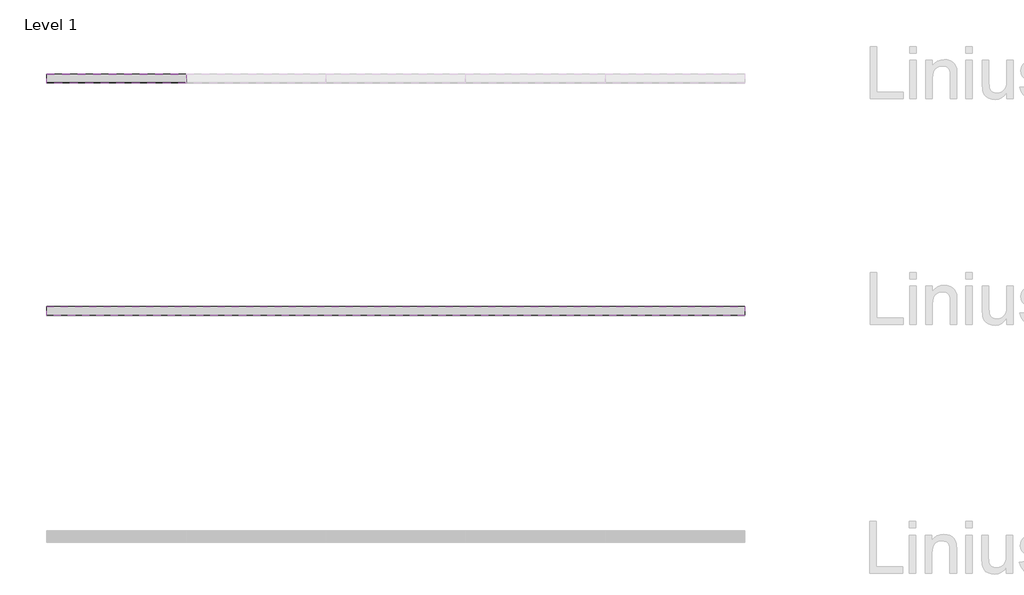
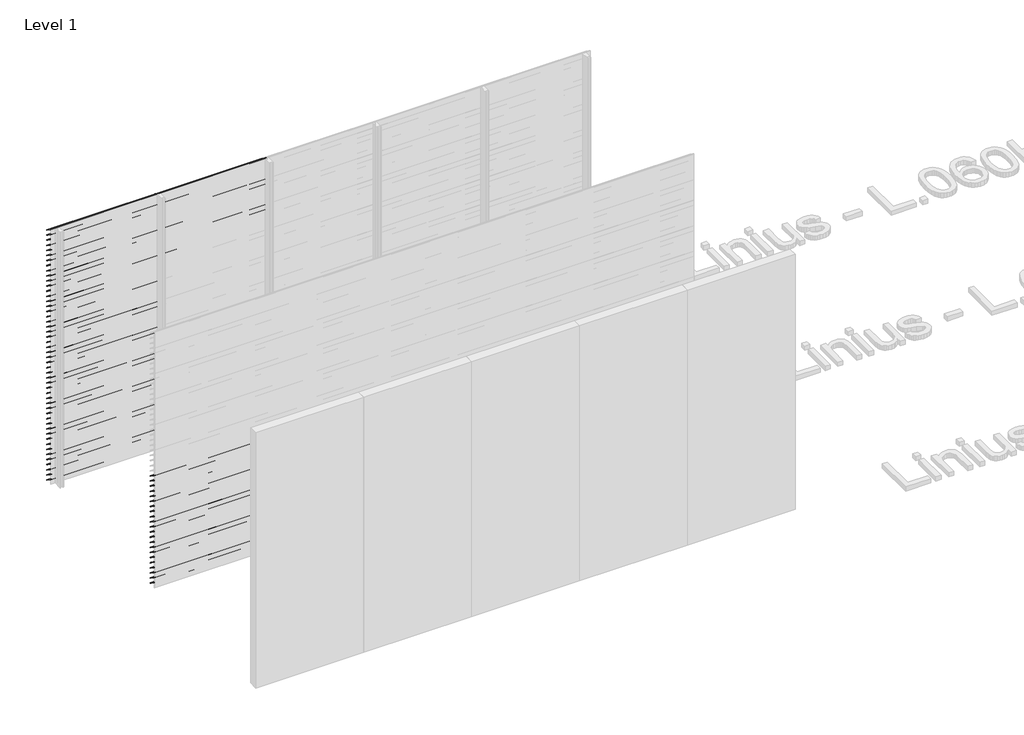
# One storey, part 78 of 153: 85 proxies.
"""IFC4 building model written with IfcOpenShell, lengths in millimetres."""

import ifcopenshell
import ifcopenshell.guid

model = None  # the IFC model being written
_history = None  # IfcOwnerHistory: only IFC2X3 demands one
_inside = {}  # id of a spatial element -> (the spatial element, [elements in it])
_under = {}  # id of a project, library or spatial element -> (it, [spatial elements below it])
_declared = {}  # id of a project -> (the project, [libraries it declares])
_typed = {}  # id of a type object -> (the type object, [elements of that type])
_made_of = {}  # id of a material, layer set ... -> (it, [elements and type objects made of it])


def new_model(schema):
    """Start an empty IFC model of exactly this schema.

    Asked for "IFC4X3", IfcOpenShell would pick the latest addendum, in which some entities
    have other attributes; the version numbers below select the first issue.
    IFC2X3 requires an IfcOwnerHistory on every rooted entity: one is made here for all.
    """
    global model, _history
    if schema == "IFC4X3":
        model = ifcopenshell.file(schema_version=(4, 3, 0, 0))
    else:
        model = ifcopenshell.file(schema=schema)
    _inside.clear()
    _under.clear()
    _declared.clear()
    _typed.clear()
    _made_of.clear()
    _history = None
    if model.schema == "IFC2X3":
        org = make("IfcOrganization", Name="unknown")
        user = make(
            "IfcPersonAndOrganization",
            ThePerson=make("IfcPerson", FamilyName="unknown"),
            TheOrganization=org,
        )
        app = make(
            "IfcApplication",
            ApplicationDeveloper=org,
            Version="unknown",
            ApplicationFullName="unknown",
            ApplicationIdentifier="unknown",
        )
        _history = make(
            "IfcOwnerHistory",
            OwningUser=user,
            OwningApplication=app,
            ChangeAction="ADDED",
            CreationDate=0,
        )
    return model


def make(cls, **values):
    """One entity of the class cls with the attributes given. An attribute that is None is left unset."""
    return model.create_entity(
        cls, **{name: value for name, value in values.items() if value is not None}
    )


def rooted(cls, **values):
    """An entity with a GlobalId (a new one), such as an element, a storey or a relation."""
    return make(cls, GlobalId=ifcopenshell.guid.new(), OwnerHistory=_history, **values)


def si_unit(unit_type, name, prefix=None):
    """IfcSIUnit, for example si_unit("LENGTHUNIT", "METRE", prefix="MILLI")."""
    return make("IfcSIUnit", UnitType=unit_type, Prefix=prefix, Name=name)


def assignment(units):
    """IfcUnitAssignment: the units of a project."""
    return None if units is None else make("IfcUnitAssignment", Units=units)


def point(xyz):
    """IfcCartesianPoint."""
    return None if xyz is None else make("IfcCartesianPoint", Coordinates=xyz)


def direction(xyz):
    """IfcDirection."""
    return None if xyz is None else make("IfcDirection", DirectionRatios=xyz)


def frame(location, z_axis=None, x_axis=None):
    """IfcAxis2Placement3D, a coordinate frame: its origin and axes. An axis left out is left unset."""
    return make(
        "IfcAxis2Placement3D",
        Location=point(location),
        Axis=direction(z_axis),
        RefDirection=direction(x_axis),
    )


def origin():
    """The frame at (0, 0, 0) with its axes left unset."""
    return frame((0.0, 0.0, 0.0))


def place(relative_to, where):
    """IfcLocalPlacement: puts the frame where relative to a parent placement (None: the world)."""
    return make(
        "IfcLocalPlacement", PlacementRelTo=relative_to, RelativePlacement=where
    )


def context(
    kind, dimensions, precision=None, world=None, true_north=None, identifier=None
):
    """IfcGeometricRepresentationContext, for example the 3D "Model" context."""
    return make(
        "IfcGeometricRepresentationContext",
        ContextIdentifier=identifier,
        ContextType=kind,
        CoordinateSpaceDimension=dimensions,
        Precision=precision,
        WorldCoordinateSystem=world,
        TrueNorth=true_north,
    )


def project(units=None, contexts=None):
    """IfcProject with its units and contexts."""
    return rooted(
        "IfcProject",
        Name="project",
        RepresentationContexts=contexts,
        UnitsInContext=assignment(units),
    )


def spatial(cls, under=None, at=None, **own):
    """A site, building, storey or space (cls), placed at a placement, below another one or the project."""
    s = rooted(cls, ObjectPlacement=at, **own)
    if under is not None:
        _under.setdefault(under.id(), (under, []))[1].append(s)
    return s


def polyline(points):
    """IfcPolyline through the points."""
    return make("IfcPolyline", Points=[point(p) for p in points])


def outline(outer, holes=None, kind="AREA"):
    """IfcArbitraryClosedProfileDef: a profile drawn as a closed curve; with holes, ...WithVoids."""
    if holes is None:
        return make("IfcArbitraryClosedProfileDef", ProfileType=kind, OuterCurve=outer)
    return make(
        "IfcArbitraryProfileDefWithVoids",
        ProfileType=kind,
        OuterCurve=outer,
        InnerCurves=holes,
    )


def extrude(swept, where, along, depth):
    """IfcExtrudedAreaSolid: the profile swept, set in the frame where, extruded along a direction by depth."""
    return make(
        "IfcExtrudedAreaSolid",
        SweptArea=swept,
        Position=where,
        ExtrudedDirection=direction(along),
        Depth=depth,
    )


def shape(context_of_items, identifier, shape_type, items):
    """IfcShapeRepresentation: the items that make up one representation, for example the "Body"."""
    return make(
        "IfcShapeRepresentation",
        ContextOfItems=context_of_items,
        RepresentationIdentifier=identifier,
        RepresentationType=shape_type,
        Items=items,
    )


def made_of(thing, what):
    """Note that an element or type object is made of a material, layer set ...; save() writes the relation."""
    if what is not None:
        _made_of.setdefault(what.id(), (what, []))[1].append(thing)
    return thing


def element(
    cls,
    number,
    at=None,
    inside=None,
    cuts=None,
    type_object=None,
    material=None,
    context=None,
    identifier="Body",
    shape_type=None,
    held_by="IfcProductDefinitionShape",
    body=None,
    shapes=None,
    **own,
):
    """One element of the class cls, such as IfcWall. Its Tag is "e" and its number.

    at: its placement. inside: the storey or other place that contains it. cuts: it is an
    opening in that element (IfcRelVoidsElement). A single representation is given by context,
    identifier, shape_type and body (its items); several are given by shapes. held_by: the class
    of the entity that holds the representations. save() writes the other relations.
    """
    e = rooted(cls, Tag="e%d" % number, ObjectPlacement=at, **own)
    if body is not None:
        shapes = [shape(context, identifier, shape_type, body)]
    if shapes is not None:
        e.Representation = make(held_by, Representations=shapes)
    if inside is not None:
        _inside.setdefault(inside.id(), (inside, []))[1].append(e)
    if cuts is not None:
        rooted(
            "IfcRelVoidsElement", RelatingBuildingElement=cuts, RelatedOpeningElement=e
        )
    if type_object is not None:
        _typed.setdefault(type_object.id(), (type_object, []))[1].append(e)
    return made_of(e, material)


def aggregate(whole, parts):
    """IfcRelAggregates: a whole, such as a stair, and the parts it consists of."""
    return rooted("IfcRelAggregates", RelatingObject=whole, RelatedObjects=parts)


def save(model, path):
    """Write the relations noted so far, then the file.

    IfcRelAggregates (storeys below a building ...), IfcRelContainedInSpatialStructure (elements
    in a storey), IfcRelDefinesByType, IfcRelAssociatesMaterial and IfcRelDeclares: one each for
    every whole, place, type object, material and project.
    """
    for whole, parts in _under.values():
        aggregate(whole, parts)
    for where, things in _inside.values():
        rooted(
            "IfcRelContainedInSpatialStructure",
            RelatedElements=things,
            RelatingStructure=where,
        )
    for kind, things in _typed.values():
        rooted("IfcRelDefinesByType", RelatedObjects=things, RelatingType=kind)
    for what, things in _made_of.values():
        rooted("IfcRelAssociatesMaterial", RelatedObjects=things, RelatingMaterial=what)
    for by, libraries in _declared.values():
        rooted("IfcRelDeclares", RelatingContext=by, RelatedDefinitions=libraries)
    model.write(path)


model = new_model("IFC4")

# Units and contexts
model_context = context("Model", 3, world=origin())
ifc_project = project(units=[si_unit("LENGTHUNIT", "METRE", prefix="MILLI")], contexts=[model_context])

# Site, building, storey
site = spatial("IfcSite", under=ifc_project)
building = spatial("IfcBuilding", under=site)
storey = spatial("IfcBuildingStorey", under=building, Name="Level 1", Elevation=0.0)

# Proxies
placement = place(None, origin())
element("IfcBuildingElementProxy", 1, Name="Wall Sweeps", at=placement, inside=storey, context=model_context, shape_type="SweptSolid", body=[
    extrude(outline(polyline([(51561.0540136, 2946.0), (51561.0540136, 2940.0), (51559.8040136, 2940.7216933), (51559.8040136, 2945.2538091), (51483.0540136, 2993.9915103), (51483.0540136, 3000.0), (51484.3040136, 3000.0), (51484.3040136, 2994.7377012), (51561.0540136, 2946.0)])), frame((466.6208097, 0.0, 0.0), z_axis=(1.0, 0.0, 0.0), x_axis=(0.0, 1.0, 0.0)), (0.0, 0.0, 1.0), 1200.0000002),
])
element("IfcBuildingElementProxy", 2, Name="Wall Sweeps", at=placement, inside=storey, context=model_context, shape_type="SweptSolid", body=[
    extrude(outline(polyline([(51561.0540136, 2886.0), (51561.0540136, 2880.0), (51559.8040136, 2880.7216933), (51559.8040136, 2885.2538091), (51483.0540136, 2933.9915103), (51483.0540136, 2940.0), (51484.3040136, 2940.0), (51484.3040136, 2934.7377012), (51561.0540136, 2886.0)])), frame((466.6208097, 0.0, 0.0), z_axis=(1.0, 0.0, 0.0), x_axis=(0.0, 1.0, 0.0)), (0.0, 0.0, 1.0), 1200.0000002),
])
element("IfcBuildingElementProxy", 3, Name="Wall Sweeps", at=placement, inside=storey, context=model_context, shape_type="SweptSolid", body=[
    extrude(outline(polyline([(51561.0540136, 2826.0), (51561.0540136, 2820.0), (51559.8040136, 2820.7216933), (51559.8040136, 2825.2538091), (51483.0540136, 2873.9915103), (51483.0540136, 2880.0), (51484.3040136, 2880.0), (51484.3040136, 2874.7377012), (51561.0540136, 2826.0)])), frame((466.6208097, 0.0, 0.0), z_axis=(1.0, 0.0, 0.0), x_axis=(0.0, 1.0, 0.0)), (0.0, 0.0, 1.0), 1200.0000002),
])
element("IfcBuildingElementProxy", 4, Name="Wall Sweeps", at=placement, inside=storey, context=model_context, shape_type="SweptSolid", body=[
    extrude(outline(polyline([(51561.0540136, 2766.0), (51561.0540136, 2760.0), (51559.8040136, 2760.7216933), (51559.8040136, 2765.2538091), (51483.0540136, 2813.9915103), (51483.0540136, 2820.0), (51484.3040136, 2820.0), (51484.3040136, 2814.7377012), (51561.0540136, 2766.0)])), frame((466.6208097, 0.0, 0.0), z_axis=(1.0, 0.0, 0.0), x_axis=(0.0, 1.0, 0.0)), (0.0, 0.0, 1.0), 1200.0000002),
])
element("IfcBuildingElementProxy", 5, Name="Wall Sweeps", at=placement, inside=storey, context=model_context, shape_type="SweptSolid", body=[
    extrude(outline(polyline([(51561.0540136, 2706.0), (51561.0540136, 2700.0), (51559.8040136, 2700.7216933), (51559.8040136, 2705.2538091), (51483.0540136, 2753.9915103), (51483.0540136, 2760.0), (51484.3040136, 2760.0), (51484.3040136, 2754.7377012), (51561.0540136, 2706.0)])), frame((466.6208097, 0.0, 0.0), z_axis=(1.0, 0.0, 0.0), x_axis=(0.0, 1.0, 0.0)), (0.0, 0.0, 1.0), 1200.0000002),
])
element("IfcBuildingElementProxy", 6, Name="Wall Sweeps", at=placement, inside=storey, context=model_context, shape_type="SweptSolid", body=[
    extrude(outline(polyline([(51561.0540136, 2646.0), (51561.0540136, 2640.0), (51559.8040136, 2640.7216933), (51559.8040136, 2645.2538091), (51483.0540136, 2693.9915103), (51483.0540136, 2700.0), (51484.3040136, 2700.0), (51484.3040136, 2694.7377012), (51561.0540136, 2646.0)])), frame((466.6208097, 0.0, 0.0), z_axis=(1.0, 0.0, 0.0), x_axis=(0.0, 1.0, 0.0)), (0.0, 0.0, 1.0), 1200.0000002),
])
element("IfcBuildingElementProxy", 7, Name="Wall Sweeps", at=placement, inside=storey, context=model_context, shape_type="SweptSolid", body=[
    extrude(outline(polyline([(51561.0540136, 2586.0), (51561.0540136, 2580.0), (51559.8040136, 2580.7216933), (51559.8040136, 2585.2538091), (51483.0540136, 2633.9915103), (51483.0540136, 2640.0), (51484.3040136, 2640.0), (51484.3040136, 2634.7377012), (51561.0540136, 2586.0)])), frame((466.6208097, 0.0, 0.0), z_axis=(1.0, 0.0, 0.0), x_axis=(0.0, 1.0, 0.0)), (0.0, 0.0, 1.0), 1200.0000002),
])
element("IfcBuildingElementProxy", 8, Name="Wall Sweeps", at=placement, inside=storey, context=model_context, shape_type="SweptSolid", body=[
    extrude(outline(polyline([(51561.0540136, 2526.0), (51561.0540136, 2520.0), (51559.8040136, 2520.7216933), (51559.8040136, 2525.2538091), (51483.0540136, 2573.9915103), (51483.0540136, 2580.0), (51484.3040136, 2580.0), (51484.3040136, 2574.7377012), (51561.0540136, 2526.0)])), frame((466.6208097, 0.0, 0.0), z_axis=(1.0, 0.0, 0.0), x_axis=(0.0, 1.0, 0.0)), (0.0, 0.0, 1.0), 1200.0000002),
])
element("IfcBuildingElementProxy", 9, Name="Wall Sweeps", at=placement, inside=storey, context=model_context, shape_type="SweptSolid", body=[
    extrude(outline(polyline([(51561.0540136, 2466.0), (51561.0540136, 2460.0), (51559.8040136, 2460.7216933), (51559.8040136, 2465.2538091), (51483.0540136, 2513.9915103), (51483.0540136, 2520.0), (51484.3040136, 2520.0), (51484.3040136, 2514.7377012), (51561.0540136, 2466.0)])), frame((466.6208097, 0.0, 0.0), z_axis=(1.0, 0.0, 0.0), x_axis=(0.0, 1.0, 0.0)), (0.0, 0.0, 1.0), 1200.0000002),
])
element("IfcBuildingElementProxy", 10, Name="Wall Sweeps", at=placement, inside=storey, context=model_context, shape_type="SweptSolid", body=[
    extrude(outline(polyline([(51561.0540136, 2406.0), (51561.0540136, 2400.0), (51559.8040136, 2400.7216933), (51559.8040136, 2405.2538091), (51483.0540136, 2453.9915103), (51483.0540136, 2460.0), (51484.3040136, 2460.0), (51484.3040136, 2454.7377012), (51561.0540136, 2406.0)])), frame((466.6208097, 0.0, 0.0), z_axis=(1.0, 0.0, 0.0), x_axis=(0.0, 1.0, 0.0)), (0.0, 0.0, 1.0), 1200.0000002),
])
element("IfcBuildingElementProxy", 11, Name="Wall Sweeps", at=placement, inside=storey, context=model_context, shape_type="SweptSolid", body=[
    extrude(outline(polyline([(51561.0540136, 2346.0), (51561.0540136, 2340.0), (51559.8040136, 2340.7216933), (51559.8040136, 2345.2538091), (51483.0540136, 2393.9915103), (51483.0540136, 2400.0), (51484.3040136, 2400.0), (51484.3040136, 2394.7377012), (51561.0540136, 2346.0)])), frame((466.6208097, 0.0, 0.0), z_axis=(1.0, 0.0, 0.0), x_axis=(0.0, 1.0, 0.0)), (0.0, 0.0, 1.0), 1200.0000002),
])
element("IfcBuildingElementProxy", 12, Name="Wall Sweeps", at=placement, inside=storey, context=model_context, shape_type="SweptSolid", body=[
    extrude(outline(polyline([(51561.0540136, 2286.0), (51561.0540136, 2280.0), (51559.8040136, 2280.7216933), (51559.8040136, 2285.2538091), (51483.0540136, 2333.9915103), (51483.0540136, 2340.0), (51484.3040136, 2340.0), (51484.3040136, 2334.7377012), (51561.0540136, 2286.0)])), frame((466.6208097, 0.0, 0.0), z_axis=(1.0, 0.0, 0.0), x_axis=(0.0, 1.0, 0.0)), (0.0, 0.0, 1.0), 1200.0000002),
])
element("IfcBuildingElementProxy", 13, Name="Wall Sweeps", at=placement, inside=storey, context=model_context, shape_type="SweptSolid", body=[
    extrude(outline(polyline([(51561.0540136, 2226.0), (51561.0540136, 2220.0), (51559.8040136, 2220.7216933), (51559.8040136, 2225.2538091), (51483.0540136, 2273.9915103), (51483.0540136, 2280.0), (51484.3040136, 2280.0), (51484.3040136, 2274.7377012), (51561.0540136, 2226.0)])), frame((466.6208097, 0.0, 0.0), z_axis=(1.0, 0.0, 0.0), x_axis=(0.0, 1.0, 0.0)), (0.0, 0.0, 1.0), 1200.0000002),
])
element("IfcBuildingElementProxy", 14, Name="Wall Sweeps", at=placement, inside=storey, context=model_context, shape_type="SweptSolid", body=[
    extrude(outline(polyline([(51561.0540136, 2166.0), (51561.0540136, 2160.0), (51559.8040136, 2160.7216933), (51559.8040136, 2165.2538091), (51483.0540136, 2213.9915103), (51483.0540136, 2220.0), (51484.3040136, 2220.0), (51484.3040136, 2214.7377012), (51561.0540136, 2166.0)])), frame((466.6208097, 0.0, 0.0), z_axis=(1.0, 0.0, 0.0), x_axis=(0.0, 1.0, 0.0)), (0.0, 0.0, 1.0), 1200.0000002),
])
element("IfcBuildingElementProxy", 15, Name="Wall Sweeps", at=placement, inside=storey, context=model_context, shape_type="SweptSolid", body=[
    extrude(outline(polyline([(51561.0540136, 2106.0), (51561.0540136, 2100.0), (51559.8040136, 2100.7216933), (51559.8040136, 2105.2538091), (51483.0540136, 2153.9915103), (51483.0540136, 2160.0), (51484.3040136, 2160.0), (51484.3040136, 2154.7377012), (51561.0540136, 2106.0)])), frame((466.6208097, 0.0, 0.0), z_axis=(1.0, 0.0, 0.0), x_axis=(0.0, 1.0, 0.0)), (0.0, 0.0, 1.0), 1200.0000002),
])
element("IfcBuildingElementProxy", 16, Name="Wall Sweeps", at=placement, inside=storey, context=model_context, shape_type="SweptSolid", body=[
    extrude(outline(polyline([(51561.0540136, 2046.0), (51561.0540136, 2040.0), (51559.8040136, 2040.7216933), (51559.8040136, 2045.2538091), (51483.0540136, 2093.9915103), (51483.0540136, 2100.0), (51484.3040136, 2100.0), (51484.3040136, 2094.7377012), (51561.0540136, 2046.0)])), frame((466.6208097, 0.0, 0.0), z_axis=(1.0, 0.0, 0.0), x_axis=(0.0, 1.0, 0.0)), (0.0, 0.0, 1.0), 1200.0000002),
])
element("IfcBuildingElementProxy", 17, Name="Wall Sweeps", at=placement, inside=storey, context=model_context, shape_type="SweptSolid", body=[
    extrude(outline(polyline([(51561.0540136, 1986.0), (51561.0540136, 1980.0), (51559.8040136, 1980.7216933), (51559.8040136, 1985.2538091), (51483.0540136, 2033.9915103), (51483.0540136, 2040.0), (51484.3040136, 2040.0), (51484.3040136, 2034.7377012), (51561.0540136, 1986.0)])), frame((466.6208097, 0.0, 0.0), z_axis=(1.0, 0.0, 0.0), x_axis=(0.0, 1.0, 0.0)), (0.0, 0.0, 1.0), 1200.0000002),
])
element("IfcBuildingElementProxy", 18, Name="Wall Sweeps", at=placement, inside=storey, context=model_context, shape_type="SweptSolid", body=[
    extrude(outline(polyline([(51561.0540136, 1926.0), (51561.0540136, 1920.0), (51559.8040136, 1920.7216933), (51559.8040136, 1925.2538091), (51483.0540136, 1973.9915103), (51483.0540136, 1980.0), (51484.3040136, 1980.0), (51484.3040136, 1974.7377012), (51561.0540136, 1926.0)])), frame((466.6208097, 0.0, 0.0), z_axis=(1.0, 0.0, 0.0), x_axis=(0.0, 1.0, 0.0)), (0.0, 0.0, 1.0), 1200.0000002),
])
element("IfcBuildingElementProxy", 19, Name="Wall Sweeps", at=placement, inside=storey, context=model_context, shape_type="SweptSolid", body=[
    extrude(outline(polyline([(51561.0540136, 1866.0), (51561.0540136, 1860.0), (51559.8040136, 1860.7216933), (51559.8040136, 1865.2538091), (51483.0540136, 1913.9915103), (51483.0540136, 1920.0), (51484.3040136, 1920.0), (51484.3040136, 1914.7377012), (51561.0540136, 1866.0)])), frame((466.6208097, 0.0, 0.0), z_axis=(1.0, 0.0, 0.0), x_axis=(0.0, 1.0, 0.0)), (0.0, 0.0, 1.0), 1200.0000002),
])
element("IfcBuildingElementProxy", 20, Name="Wall Sweeps", at=placement, inside=storey, context=model_context, shape_type="SweptSolid", body=[
    extrude(outline(polyline([(51561.0540136, 1806.0), (51561.0540136, 1800.0), (51559.8040136, 1800.7216933), (51559.8040136, 1805.2538091), (51483.0540136, 1853.9915103), (51483.0540136, 1860.0), (51484.3040136, 1860.0), (51484.3040136, 1854.7377012), (51561.0540136, 1806.0)])), frame((466.6208097, 0.0, 0.0), z_axis=(1.0, 0.0, 0.0), x_axis=(0.0, 1.0, 0.0)), (0.0, 0.0, 1.0), 1200.0000002),
])
element("IfcBuildingElementProxy", 21, Name="Wall Sweeps", at=placement, inside=storey, context=model_context, shape_type="SweptSolid", body=[
    extrude(outline(polyline([(51561.0540136, 1746.0), (51561.0540136, 1740.0), (51559.8040136, 1740.7216933), (51559.8040136, 1745.2538091), (51483.0540136, 1793.9915103), (51483.0540136, 1800.0), (51484.3040136, 1800.0), (51484.3040136, 1794.7377012), (51561.0540136, 1746.0)])), frame((466.6208097, 0.0, 0.0), z_axis=(1.0, 0.0, 0.0), x_axis=(0.0, 1.0, 0.0)), (0.0, 0.0, 1.0), 1200.0000002),
])
element("IfcBuildingElementProxy", 22, Name="Wall Sweeps", at=placement, inside=storey, context=model_context, shape_type="SweptSolid", body=[
    extrude(outline(polyline([(51561.0540136, 1686.0), (51561.0540136, 1680.0), (51559.8040136, 1680.7216933), (51559.8040136, 1685.2538091), (51483.0540136, 1733.9915103), (51483.0540136, 1740.0), (51484.3040136, 1740.0), (51484.3040136, 1734.7377012), (51561.0540136, 1686.0)])), frame((466.6208097, 0.0, 0.0), z_axis=(1.0, 0.0, 0.0), x_axis=(0.0, 1.0, 0.0)), (0.0, 0.0, 1.0), 1200.0000002),
])
element("IfcBuildingElementProxy", 23, Name="Wall Sweeps", at=placement, inside=storey, context=model_context, shape_type="SweptSolid", body=[
    extrude(outline(polyline([(51561.0540136, 1626.0), (51561.0540136, 1620.0), (51559.8040136, 1620.7216933), (51559.8040136, 1625.2538091), (51483.0540136, 1673.9915103), (51483.0540136, 1680.0), (51484.3040136, 1680.0), (51484.3040136, 1674.7377012), (51561.0540136, 1626.0)])), frame((466.6208097, 0.0, 0.0), z_axis=(1.0, 0.0, 0.0), x_axis=(0.0, 1.0, 0.0)), (0.0, 0.0, 1.0), 1200.0000002),
])
element("IfcBuildingElementProxy", 24, Name="Wall Sweeps", at=placement, inside=storey, context=model_context, shape_type="SweptSolid", body=[
    extrude(outline(polyline([(51561.0540136, 1566.0), (51561.0540136, 1560.0), (51559.8040136, 1560.7216933), (51559.8040136, 1565.2538091), (51483.0540136, 1613.9915103), (51483.0540136, 1620.0), (51484.3040136, 1620.0), (51484.3040136, 1614.7377012), (51561.0540136, 1566.0)])), frame((466.6208097, 0.0, 0.0), z_axis=(1.0, 0.0, 0.0), x_axis=(0.0, 1.0, 0.0)), (0.0, 0.0, 1.0), 1200.0000002),
])
element("IfcBuildingElementProxy", 25, Name="Wall Sweeps", at=placement, inside=storey, context=model_context, shape_type="SweptSolid", body=[
    extrude(outline(polyline([(51561.0540136, 1506.0), (51561.0540136, 1500.0), (51559.8040136, 1500.7216933), (51559.8040136, 1505.2538091), (51483.0540136, 1553.9915103), (51483.0540136, 1560.0), (51484.3040136, 1560.0), (51484.3040136, 1554.7377012), (51561.0540136, 1506.0)])), frame((466.6208097, 0.0, 0.0), z_axis=(1.0, 0.0, 0.0), x_axis=(0.0, 1.0, 0.0)), (0.0, 0.0, 1.0), 1200.0000002),
])
element("IfcBuildingElementProxy", 26, Name="Wall Sweeps", at=placement, inside=storey, context=model_context, shape_type="SweptSolid", body=[
    extrude(outline(polyline([(51561.0540136, 1446.0), (51561.0540136, 1440.0), (51559.8040136, 1440.7216933), (51559.8040136, 1445.2538091), (51483.0540136, 1493.9915103), (51483.0540136, 1500.0), (51484.3040136, 1500.0), (51484.3040136, 1494.7377012), (51561.0540136, 1446.0)])), frame((466.6208097, 0.0, 0.0), z_axis=(1.0, 0.0, 0.0), x_axis=(0.0, 1.0, 0.0)), (0.0, 0.0, 1.0), 1200.0000002),
])
element("IfcBuildingElementProxy", 27, Name="Wall Sweeps", at=placement, inside=storey, context=model_context, shape_type="SweptSolid", body=[
    extrude(outline(polyline([(51561.0540136, 1386.0), (51561.0540136, 1380.0), (51559.8040136, 1380.7216933), (51559.8040136, 1385.2538091), (51483.0540136, 1433.9915103), (51483.0540136, 1440.0), (51484.3040136, 1440.0), (51484.3040136, 1434.7377012), (51561.0540136, 1386.0)])), frame((466.6208097, 0.0, 0.0), z_axis=(1.0, 0.0, 0.0), x_axis=(0.0, 1.0, 0.0)), (0.0, 0.0, 1.0), 1200.0000002),
])
element("IfcBuildingElementProxy", 28, Name="Wall Sweeps", at=placement, inside=storey, context=model_context, shape_type="SweptSolid", body=[
    extrude(outline(polyline([(51561.0540136, 1326.0), (51561.0540136, 1320.0), (51559.8040136, 1320.7216933), (51559.8040136, 1325.2538091), (51483.0540136, 1373.9915103), (51483.0540136, 1380.0), (51484.3040136, 1380.0), (51484.3040136, 1374.7377012), (51561.0540136, 1326.0)])), frame((466.6208097, 0.0, 0.0), z_axis=(1.0, 0.0, 0.0), x_axis=(0.0, 1.0, 0.0)), (0.0, 0.0, 1.0), 1200.0000002),
])
element("IfcBuildingElementProxy", 29, Name="Wall Sweeps", at=placement, inside=storey, context=model_context, shape_type="SweptSolid", body=[
    extrude(outline(polyline([(51561.0540136, 1266.0), (51561.0540136, 1260.0), (51559.8040136, 1260.7216933), (51559.8040136, 1265.2538091), (51483.0540136, 1313.9915103), (51483.0540136, 1320.0), (51484.3040136, 1320.0), (51484.3040136, 1314.7377012), (51561.0540136, 1266.0)])), frame((466.6208097, 0.0, 0.0), z_axis=(1.0, 0.0, 0.0), x_axis=(0.0, 1.0, 0.0)), (0.0, 0.0, 1.0), 1200.0000002),
])
element("IfcBuildingElementProxy", 30, Name="Wall Sweeps", at=placement, inside=storey, context=model_context, shape_type="SweptSolid", body=[
    extrude(outline(polyline([(51561.0540136, 1206.0), (51561.0540136, 1200.0), (51559.8040136, 1200.7216933), (51559.8040136, 1205.2538091), (51483.0540136, 1253.9915103), (51483.0540136, 1260.0), (51484.3040136, 1260.0), (51484.3040136, 1254.7377012), (51561.0540136, 1206.0)])), frame((466.6208097, 0.0, 0.0), z_axis=(1.0, 0.0, 0.0), x_axis=(0.0, 1.0, 0.0)), (0.0, 0.0, 1.0), 1200.0000002),
])
element("IfcBuildingElementProxy", 31, Name="Wall Sweeps", at=placement, inside=storey, context=model_context, shape_type="SweptSolid", body=[
    extrude(outline(polyline([(51561.0540136, 1146.0), (51561.0540136, 1140.0), (51559.8040136, 1140.7216933), (51559.8040136, 1145.2538091), (51483.0540136, 1193.9915103), (51483.0540136, 1200.0), (51484.3040136, 1200.0), (51484.3040136, 1194.7377012), (51561.0540136, 1146.0)])), frame((466.6208097, 0.0, 0.0), z_axis=(1.0, 0.0, 0.0), x_axis=(0.0, 1.0, 0.0)), (0.0, 0.0, 1.0), 1200.0000002),
])
element("IfcBuildingElementProxy", 32, Name="Wall Sweeps", at=placement, inside=storey, context=model_context, shape_type="SweptSolid", body=[
    extrude(outline(polyline([(51561.0540136, 1086.0), (51561.0540136, 1080.0), (51559.8040136, 1080.7216933), (51559.8040136, 1085.2538091), (51483.0540136, 1133.9915103), (51483.0540136, 1140.0), (51484.3040136, 1140.0), (51484.3040136, 1134.7377012), (51561.0540136, 1086.0)])), frame((466.6208097, 0.0, 0.0), z_axis=(1.0, 0.0, 0.0), x_axis=(0.0, 1.0, 0.0)), (0.0, 0.0, 1.0), 1200.0000002),
])
element("IfcBuildingElementProxy", 33, Name="Wall Sweeps", at=placement, inside=storey, context=model_context, shape_type="SweptSolid", body=[
    extrude(outline(polyline([(51561.0540136, 1026.0), (51561.0540136, 1020.0), (51559.8040136, 1020.7216933), (51559.8040136, 1025.2538091), (51483.0540136, 1073.9915103), (51483.0540136, 1080.0), (51484.3040136, 1080.0), (51484.3040136, 1074.7377012), (51561.0540136, 1026.0)])), frame((466.6208097, 0.0, 0.0), z_axis=(1.0, 0.0, 0.0), x_axis=(0.0, 1.0, 0.0)), (0.0, 0.0, 1.0), 1200.0000002),
])
element("IfcBuildingElementProxy", 34, Name="Wall Sweeps", at=placement, inside=storey, context=model_context, shape_type="SweptSolid", body=[
    extrude(outline(polyline([(51561.0540136, 966.0), (51561.0540136, 960.0), (51559.8040136, 960.7216933), (51559.8040136, 965.2538091), (51483.0540136, 1013.9915103), (51483.0540136, 1020.0), (51484.3040136, 1020.0), (51484.3040136, 1014.7377012), (51561.0540136, 966.0)])), frame((466.6208097, 0.0, 0.0), z_axis=(1.0, 0.0, 0.0), x_axis=(0.0, 1.0, 0.0)), (0.0, 0.0, 1.0), 1200.0000002),
])
element("IfcBuildingElementProxy", 35, Name="Wall Sweeps", at=placement, inside=storey, context=model_context, shape_type="SweptSolid", body=[
    extrude(outline(polyline([(51561.0540136, 906.0), (51561.0540136, 900.0), (51559.8040136, 900.7216933), (51559.8040136, 905.2538091), (51483.0540136, 953.9915103), (51483.0540136, 960.0), (51484.3040136, 960.0), (51484.3040136, 954.7377012), (51561.0540136, 906.0)])), frame((466.6208097, 0.0, 0.0), z_axis=(1.0, 0.0, 0.0), x_axis=(0.0, 1.0, 0.0)), (0.0, 0.0, 1.0), 1200.0000002),
])
element("IfcBuildingElementProxy", 36, Name="Wall Sweeps", at=placement, inside=storey, context=model_context, shape_type="SweptSolid", body=[
    extrude(outline(polyline([(51561.0540136, 846.0), (51561.0540136, 840.0), (51559.8040136, 840.7216933), (51559.8040136, 845.2538091), (51483.0540136, 893.9915103), (51483.0540136, 900.0), (51484.3040136, 900.0), (51484.3040136, 894.7377012), (51561.0540136, 846.0)])), frame((466.6208097, 0.0, 0.0), z_axis=(1.0, 0.0, 0.0), x_axis=(0.0, 1.0, 0.0)), (0.0, 0.0, 1.0), 1200.0000002),
])
element("IfcBuildingElementProxy", 37, Name="Wall Sweeps", at=placement, inside=storey, context=model_context, shape_type="SweptSolid", body=[
    extrude(outline(polyline([(51561.0540136, 786.0), (51561.0540136, 780.0), (51559.8040136, 780.7216933), (51559.8040136, 785.2538091), (51483.0540136, 833.9915103), (51483.0540136, 840.0), (51484.3040136, 840.0), (51484.3040136, 834.7377012), (51561.0540136, 786.0)])), frame((466.6208097, 0.0, 0.0), z_axis=(1.0, 0.0, 0.0), x_axis=(0.0, 1.0, 0.0)), (0.0, 0.0, 1.0), 1200.0000002),
])
element("IfcBuildingElementProxy", 38, Name="Wall Sweeps", at=placement, inside=storey, context=model_context, shape_type="SweptSolid", body=[
    extrude(outline(polyline([(51561.0540136, 726.0), (51561.0540136, 720.0), (51559.8040136, 720.7216933), (51559.8040136, 725.2538091), (51483.0540136, 773.9915103), (51483.0540136, 780.0), (51484.3040136, 780.0), (51484.3040136, 774.7377012), (51561.0540136, 726.0)])), frame((466.6208097, 0.0, 0.0), z_axis=(1.0, 0.0, 0.0), x_axis=(0.0, 1.0, 0.0)), (0.0, 0.0, 1.0), 1200.0000002),
])
element("IfcBuildingElementProxy", 39, Name="Wall Sweeps", at=placement, inside=storey, context=model_context, shape_type="SweptSolid", body=[
    extrude(outline(polyline([(51561.0540136, 666.0), (51561.0540136, 660.0), (51559.8040136, 660.7216933), (51559.8040136, 665.2538091), (51483.0540136, 713.9915103), (51483.0540136, 720.0), (51484.3040136, 720.0), (51484.3040136, 714.7377012), (51561.0540136, 666.0)])), frame((466.6208097, 0.0, 0.0), z_axis=(1.0, 0.0, 0.0), x_axis=(0.0, 1.0, 0.0)), (0.0, 0.0, 1.0), 1200.0000002),
])
element("IfcBuildingElementProxy", 40, Name="Wall Sweeps", at=placement, inside=storey, context=model_context, shape_type="SweptSolid", body=[
    extrude(outline(polyline([(51561.0540136, 606.0), (51561.0540136, 600.0), (51559.8040136, 600.7216933), (51559.8040136, 605.2538091), (51483.0540136, 653.9915103), (51483.0540136, 660.0), (51484.3040136, 660.0), (51484.3040136, 654.7377012), (51561.0540136, 606.0)])), frame((466.6208097, 0.0, 0.0), z_axis=(1.0, 0.0, 0.0), x_axis=(0.0, 1.0, 0.0)), (0.0, 0.0, 1.0), 1200.0000002),
])
element("IfcBuildingElementProxy", 41, Name="Wall Sweeps", at=placement, inside=storey, context=model_context, shape_type="SweptSolid", body=[
    extrude(outline(polyline([(51561.0540136, 546.0), (51561.0540136, 540.0), (51559.8040136, 540.7216933), (51559.8040136, 545.2538091), (51483.0540136, 593.9915103), (51483.0540136, 600.0), (51484.3040136, 600.0), (51484.3040136, 594.7377012), (51561.0540136, 546.0)])), frame((466.6208097, 0.0, 0.0), z_axis=(1.0, 0.0, 0.0), x_axis=(0.0, 1.0, 0.0)), (0.0, 0.0, 1.0), 1200.0000002),
])
element("IfcBuildingElementProxy", 42, Name="Wall Sweeps", at=placement, inside=storey, context=model_context, shape_type="SweptSolid", body=[
    extrude(outline(polyline([(51561.0540136, 486.0), (51561.0540136, 480.0), (51559.8040136, 480.7216933), (51559.8040136, 485.2538091), (51483.0540136, 533.9915103), (51483.0540136, 540.0), (51484.3040136, 540.0), (51484.3040136, 534.7377012), (51561.0540136, 486.0)])), frame((466.6208097, 0.0, 0.0), z_axis=(1.0, 0.0, 0.0), x_axis=(0.0, 1.0, 0.0)), (0.0, 0.0, 1.0), 1200.0000002),
])
element("IfcBuildingElementProxy", 43, Name="Wall Sweeps", at=placement, inside=storey, context=model_context, shape_type="SweptSolid", body=[
    extrude(outline(polyline([(51561.0540136, 426.0), (51561.0540136, 420.0), (51559.8040136, 420.7216933), (51559.8040136, 425.2538091), (51483.0540136, 473.9915103), (51483.0540136, 480.0), (51484.3040136, 480.0), (51484.3040136, 474.7377012), (51561.0540136, 426.0)])), frame((466.6208097, 0.0, 0.0), z_axis=(1.0, 0.0, 0.0), x_axis=(0.0, 1.0, 0.0)), (0.0, 0.0, 1.0), 1200.0000002),
])
element("IfcBuildingElementProxy", 44, Name="Wall Sweeps", at=placement, inside=storey, context=model_context, shape_type="SweptSolid", body=[
    extrude(outline(polyline([(51561.0540136, 366.0), (51561.0540136, 360.0), (51559.8040136, 360.7216933), (51559.8040136, 365.2538091), (51483.0540136, 413.9915103), (51483.0540136, 420.0), (51484.3040136, 420.0), (51484.3040136, 414.7377012), (51561.0540136, 366.0)])), frame((466.6208097, 0.0, 0.0), z_axis=(1.0, 0.0, 0.0), x_axis=(0.0, 1.0, 0.0)), (0.0, 0.0, 1.0), 1200.0000002),
])
element("IfcBuildingElementProxy", 45, Name="Wall Sweeps", at=placement, inside=storey, context=model_context, shape_type="SweptSolid", body=[
    extrude(outline(polyline([(51561.0540136, 306.0), (51561.0540136, 300.0), (51559.8040136, 300.7216933), (51559.8040136, 305.2538091), (51483.0540136, 353.9915103), (51483.0540136, 360.0), (51484.3040136, 360.0), (51484.3040136, 354.7377012), (51561.0540136, 306.0)])), frame((466.6208097, 0.0, 0.0), z_axis=(1.0, 0.0, 0.0), x_axis=(0.0, 1.0, 0.0)), (0.0, 0.0, 1.0), 1200.0000002),
])
element("IfcBuildingElementProxy", 46, Name="Wall Sweeps", at=placement, inside=storey, context=model_context, shape_type="SweptSolid", body=[
    extrude(outline(polyline([(51561.0540136, 246.0), (51561.0540136, 240.0), (51559.8040136, 240.7216933), (51559.8040136, 245.2538091), (51483.0540136, 293.9915103), (51483.0540136, 300.0), (51484.3040136, 300.0), (51484.3040136, 294.7377012), (51561.0540136, 246.0)])), frame((466.6208097, 0.0, 0.0), z_axis=(1.0, 0.0, 0.0), x_axis=(0.0, 1.0, 0.0)), (0.0, 0.0, 1.0), 1200.0000002),
])
element("IfcBuildingElementProxy", 47, Name="Wall Sweeps", at=placement, inside=storey, context=model_context, shape_type="SweptSolid", body=[
    extrude(outline(polyline([(51561.0540136, 186.0), (51561.0540136, 180.0), (51559.8040136, 180.7216933), (51559.8040136, 185.2538091), (51483.0540136, 233.9915103), (51483.0540136, 240.0), (51484.3040136, 240.0), (51484.3040136, 234.7377012), (51561.0540136, 186.0)])), frame((466.6208097, 0.0, 0.0), z_axis=(1.0, 0.0, 0.0), x_axis=(0.0, 1.0, 0.0)), (0.0, 0.0, 1.0), 1200.0000002),
])
element("IfcBuildingElementProxy", 48, Name="Wall Sweeps", at=placement, inside=storey, context=model_context, shape_type="SweptSolid", body=[
    extrude(outline(polyline([(51561.0540136, 126.0), (51561.0540136, 120.0), (51559.8040136, 120.7216933), (51559.8040136, 125.2538091), (51483.0540136, 173.9915103), (51483.0540136, 180.0), (51484.3040136, 180.0), (51484.3040136, 174.7377012), (51561.0540136, 126.0)])), frame((466.6208097, 0.0, 0.0), z_axis=(1.0, 0.0, 0.0), x_axis=(0.0, 1.0, 0.0)), (0.0, 0.0, 1.0), 1200.0000002),
])
element("IfcBuildingElementProxy", 49, Name="Wall Sweeps", at=placement, inside=storey, context=model_context, shape_type="SweptSolid", body=[
    extrude(outline(polyline([(51561.0540136, 66.0), (51561.0540136, 60.0), (51559.8040136, 60.7216933), (51559.8040136, 65.2538091), (51483.0540136, 113.9915103), (51483.0540136, 120.0), (51484.3040136, 120.0), (51484.3040136, 114.7377012), (51561.0540136, 66.0)])), frame((466.6208097, 0.0, 0.0), z_axis=(1.0, 0.0, 0.0), x_axis=(0.0, 1.0, 0.0)), (0.0, 0.0, 1.0), 1200.0000002),
])
element("IfcBuildingElementProxy", 50, Name="Wall Sweeps", at=placement, inside=storey, context=model_context, shape_type="SweptSolid", body=[
    extrude(outline(polyline([(51561.0540136, 6.0), (51561.0540136, 0.0), (51559.8040136, 0.7216933), (51559.8040136, 5.2538091), (51483.0540136, 53.9915103), (51483.0540136, 60.0), (51484.3040136, 60.0), (51484.3040136, 54.7377012), (51561.0540136, 6.0)])), frame((466.6208097, 0.0, 0.0), z_axis=(1.0, 0.0, 0.0), x_axis=(0.0, 1.0, 0.0)), (0.0, 0.0, 1.0), 1200.0000002),
])
element("IfcBuildingElementProxy", 51, Name="Wall Sweeps", at=placement, inside=storey, context=model_context, shape_type="SweptSolid", body=[
    extrude(outline(polyline([(51561.0540136, 2946.0), (51561.0540136, 2940.0), (51559.8040136, 2940.7216933), (51559.8040136, 2945.2538091), (51483.0540136, 2993.9915103), (51483.0540136, 3000.0), (51484.3040136, 3000.0), (51484.3040136, 2994.7377012), (51561.0540136, 2946.0)])), frame((1666.6208099, 0.0, 0.0), z_axis=(1.0, 0.0, 0.0), x_axis=(0.0, 1.0, 0.0)), (0.0, 0.0, 1.0), 1199.9999999),
])
element("IfcBuildingElementProxy", 52, Name="Wall Sweeps", at=placement, inside=storey, context=model_context, shape_type="SweptSolid", body=[
    extrude(outline(polyline([(51561.0540136, 2886.0), (51561.0540136, 2880.0), (51559.8040136, 2880.7216933), (51559.8040136, 2885.2538091), (51483.0540136, 2933.9915103), (51483.0540136, 2940.0), (51484.3040136, 2940.0), (51484.3040136, 2934.7377012), (51561.0540136, 2886.0)])), frame((1666.6208099, 0.0, 0.0), z_axis=(1.0, 0.0, 0.0), x_axis=(0.0, 1.0, 0.0)), (0.0, 0.0, 1.0), 1199.9999999),
])
element("IfcBuildingElementProxy", 53, Name="Wall Sweeps", at=placement, inside=storey, context=model_context, shape_type="SweptSolid", body=[
    extrude(outline(polyline([(51561.0540136, 2826.0), (51561.0540136, 2820.0), (51559.8040136, 2820.7216933), (51559.8040136, 2825.2538091), (51483.0540136, 2873.9915103), (51483.0540136, 2880.0), (51484.3040136, 2880.0), (51484.3040136, 2874.7377012), (51561.0540136, 2826.0)])), frame((1666.6208099, 0.0, 0.0), z_axis=(1.0, 0.0, 0.0), x_axis=(0.0, 1.0, 0.0)), (0.0, 0.0, 1.0), 1199.9999999),
])
element("IfcBuildingElementProxy", 54, Name="Wall Sweeps", at=placement, inside=storey, context=model_context, shape_type="SweptSolid", body=[
    extrude(outline(polyline([(51561.0540136, 2766.0), (51561.0540136, 2760.0), (51559.8040136, 2760.7216933), (51559.8040136, 2765.2538091), (51483.0540136, 2813.9915103), (51483.0540136, 2820.0), (51484.3040136, 2820.0), (51484.3040136, 2814.7377012), (51561.0540136, 2766.0)])), frame((1666.6208099, 0.0, 0.0), z_axis=(1.0, 0.0, 0.0), x_axis=(0.0, 1.0, 0.0)), (0.0, 0.0, 1.0), 1199.9999999),
])
element("IfcBuildingElementProxy", 55, Name="Wall Sweeps", at=placement, inside=storey, context=model_context, shape_type="SweptSolid", body=[
    extrude(outline(polyline([(51561.0540136, 2706.0), (51561.0540136, 2700.0), (51559.8040136, 2700.7216933), (51559.8040136, 2705.2538091), (51483.0540136, 2753.9915103), (51483.0540136, 2760.0), (51484.3040136, 2760.0), (51484.3040136, 2754.7377012), (51561.0540136, 2706.0)])), frame((1666.6208099, 0.0, 0.0), z_axis=(1.0, 0.0, 0.0), x_axis=(0.0, 1.0, 0.0)), (0.0, 0.0, 1.0), 1199.9999999),
])
element("IfcBuildingElementProxy", 56, Name="Wall Sweeps", at=placement, inside=storey, context=model_context, shape_type="SweptSolid", body=[
    extrude(outline(polyline([(51561.0540136, 2646.0), (51561.0540136, 2640.0), (51559.8040136, 2640.7216933), (51559.8040136, 2645.2538091), (51483.0540136, 2693.9915103), (51483.0540136, 2700.0), (51484.3040136, 2700.0), (51484.3040136, 2694.7377012), (51561.0540136, 2646.0)])), frame((1666.6208099, 0.0, 0.0), z_axis=(1.0, 0.0, 0.0), x_axis=(0.0, 1.0, 0.0)), (0.0, 0.0, 1.0), 1199.9999999),
])
element("IfcBuildingElementProxy", 57, Name="Wall Sweeps", at=placement, inside=storey, context=model_context, shape_type="SweptSolid", body=[
    extrude(outline(polyline([(51561.0540136, 2586.0), (51561.0540136, 2580.0), (51559.8040136, 2580.7216933), (51559.8040136, 2585.2538091), (51483.0540136, 2633.9915103), (51483.0540136, 2640.0), (51484.3040136, 2640.0), (51484.3040136, 2634.7377012), (51561.0540136, 2586.0)])), frame((1666.6208099, 0.0, 0.0), z_axis=(1.0, 0.0, 0.0), x_axis=(0.0, 1.0, 0.0)), (0.0, 0.0, 1.0), 1199.9999999),
])
element("IfcBuildingElementProxy", 58, Name="Wall Sweeps", at=placement, inside=storey, context=model_context, shape_type="SweptSolid", body=[
    extrude(outline(polyline([(51561.0540136, 2526.0), (51561.0540136, 2520.0), (51559.8040136, 2520.7216933), (51559.8040136, 2525.2538091), (51483.0540136, 2573.9915103), (51483.0540136, 2580.0), (51484.3040136, 2580.0), (51484.3040136, 2574.7377012), (51561.0540136, 2526.0)])), frame((1666.6208099, 0.0, 0.0), z_axis=(1.0, 0.0, 0.0), x_axis=(0.0, 1.0, 0.0)), (0.0, 0.0, 1.0), 1199.9999999),
])
element("IfcBuildingElementProxy", 59, Name="Wall Sweeps", at=placement, inside=storey, context=model_context, shape_type="SweptSolid", body=[
    extrude(outline(polyline([(51561.0540136, 2466.0), (51561.0540136, 2460.0), (51559.8040136, 2460.7216933), (51559.8040136, 2465.2538091), (51483.0540136, 2513.9915103), (51483.0540136, 2520.0), (51484.3040136, 2520.0), (51484.3040136, 2514.7377012), (51561.0540136, 2466.0)])), frame((1666.6208099, 0.0, 0.0), z_axis=(1.0, 0.0, 0.0), x_axis=(0.0, 1.0, 0.0)), (0.0, 0.0, 1.0), 1199.9999999),
])
element("IfcBuildingElementProxy", 60, Name="Wall Sweeps", at=placement, inside=storey, context=model_context, shape_type="SweptSolid", body=[
    extrude(outline(polyline([(51561.0540136, 2406.0), (51561.0540136, 2400.0), (51559.8040136, 2400.7216933), (51559.8040136, 2405.2538091), (51483.0540136, 2453.9915103), (51483.0540136, 2460.0), (51484.3040136, 2460.0), (51484.3040136, 2454.7377012), (51561.0540136, 2406.0)])), frame((1666.6208099, 0.0, 0.0), z_axis=(1.0, 0.0, 0.0), x_axis=(0.0, 1.0, 0.0)), (0.0, 0.0, 1.0), 1199.9999999),
])
element("IfcBuildingElementProxy", 61, Name="Wall Sweeps", at=placement, inside=storey, context=model_context, shape_type="SweptSolid", body=[
    extrude(outline(polyline([(51561.0540136, 2346.0), (51561.0540136, 2340.0), (51559.8040136, 2340.7216933), (51559.8040136, 2345.2538091), (51483.0540136, 2393.9915103), (51483.0540136, 2400.0), (51484.3040136, 2400.0), (51484.3040136, 2394.7377012), (51561.0540136, 2346.0)])), frame((1666.6208099, 0.0, 0.0), z_axis=(1.0, 0.0, 0.0), x_axis=(0.0, 1.0, 0.0)), (0.0, 0.0, 1.0), 1199.9999999),
])
element("IfcBuildingElementProxy", 62, Name="Wall Sweeps", at=placement, inside=storey, context=model_context, shape_type="SweptSolid", body=[
    extrude(outline(polyline([(51561.0540136, 2286.0), (51561.0540136, 2280.0), (51559.8040136, 2280.7216933), (51559.8040136, 2285.2538091), (51483.0540136, 2333.9915103), (51483.0540136, 2340.0), (51484.3040136, 2340.0), (51484.3040136, 2334.7377012), (51561.0540136, 2286.0)])), frame((1666.6208099, 0.0, 0.0), z_axis=(1.0, 0.0, 0.0), x_axis=(0.0, 1.0, 0.0)), (0.0, 0.0, 1.0), 1199.9999999),
])
element("IfcBuildingElementProxy", 63, Name="Wall Sweeps", at=placement, inside=storey, context=model_context, shape_type="SweptSolid", body=[
    extrude(outline(polyline([(51561.0540136, 2226.0), (51561.0540136, 2220.0), (51559.8040136, 2220.7216933), (51559.8040136, 2225.2538091), (51483.0540136, 2273.9915103), (51483.0540136, 2280.0), (51484.3040136, 2280.0), (51484.3040136, 2274.7377012), (51561.0540136, 2226.0)])), frame((1666.6208099, 0.0, 0.0), z_axis=(1.0, 0.0, 0.0), x_axis=(0.0, 1.0, 0.0)), (0.0, 0.0, 1.0), 1199.9999999),
])
element("IfcBuildingElementProxy", 64, Name="Wall Sweeps", at=placement, inside=storey, context=model_context, shape_type="SweptSolid", body=[
    extrude(outline(polyline([(49561.0540136, 1266.0), (49561.0540136, 1260.0), (49559.8040136, 1260.7216933), (49559.8040136, 1265.2538091), (49483.0540136, 1313.9915103), (49483.0540136, 1320.0), (49484.3040136, 1320.0), (49484.3040136, 1314.7377012), (49561.0540136, 1266.0)])), frame((466.6208097, 0.0, 0.0), z_axis=(1.0, 0.0, 0.0), x_axis=(0.0, 1.0, 0.0)), (0.0, 0.0, 1.0), 6000.0),
])
element("IfcBuildingElementProxy", 65, Name="Wall Sweeps", at=placement, inside=storey, context=model_context, shape_type="SweptSolid", body=[
    extrude(outline(polyline([(49561.0540136, 1206.0), (49561.0540136, 1200.0), (49559.8040136, 1200.7216933), (49559.8040136, 1205.2538091), (49483.0540136, 1253.9915103), (49483.0540136, 1260.0), (49484.3040136, 1260.0), (49484.3040136, 1254.7377012), (49561.0540136, 1206.0)])), frame((466.6208097, 0.0, 0.0), z_axis=(1.0, 0.0, 0.0), x_axis=(0.0, 1.0, 0.0)), (0.0, 0.0, 1.0), 6000.0),
])
element("IfcBuildingElementProxy", 66, Name="Wall Sweeps", at=placement, inside=storey, context=model_context, shape_type="SweptSolid", body=[
    extrude(outline(polyline([(49561.0540136, 1146.0), (49561.0540136, 1140.0), (49559.8040136, 1140.7216933), (49559.8040136, 1145.2538091), (49483.0540136, 1193.9915103), (49483.0540136, 1200.0), (49484.3040136, 1200.0), (49484.3040136, 1194.7377012), (49561.0540136, 1146.0)])), frame((466.6208097, 0.0, 0.0), z_axis=(1.0, 0.0, 0.0), x_axis=(0.0, 1.0, 0.0)), (0.0, 0.0, 1.0), 6000.0),
])
element("IfcBuildingElementProxy", 67, Name="Wall Sweeps", at=placement, inside=storey, context=model_context, shape_type="SweptSolid", body=[
    extrude(outline(polyline([(49561.0540136, 1086.0), (49561.0540136, 1080.0), (49559.8040136, 1080.7216933), (49559.8040136, 1085.2538091), (49483.0540136, 1133.9915103), (49483.0540136, 1140.0), (49484.3040136, 1140.0), (49484.3040136, 1134.7377012), (49561.0540136, 1086.0)])), frame((466.6208097, 0.0, 0.0), z_axis=(1.0, 0.0, 0.0), x_axis=(0.0, 1.0, 0.0)), (0.0, 0.0, 1.0), 6000.0),
])
element("IfcBuildingElementProxy", 68, Name="Wall Sweeps", at=placement, inside=storey, context=model_context, shape_type="SweptSolid", body=[
    extrude(outline(polyline([(49561.0540136, 1026.0), (49561.0540136, 1020.0), (49559.8040136, 1020.7216933), (49559.8040136, 1025.2538091), (49483.0540136, 1073.9915103), (49483.0540136, 1080.0), (49484.3040136, 1080.0), (49484.3040136, 1074.7377012), (49561.0540136, 1026.0)])), frame((466.6208097, 0.0, 0.0), z_axis=(1.0, 0.0, 0.0), x_axis=(0.0, 1.0, 0.0)), (0.0, 0.0, 1.0), 6000.0),
])
element("IfcBuildingElementProxy", 69, Name="Wall Sweeps", at=placement, inside=storey, context=model_context, shape_type="SweptSolid", body=[
    extrude(outline(polyline([(49561.0540136, 966.0), (49561.0540136, 960.0), (49559.8040136, 960.7216933), (49559.8040136, 965.2538091), (49483.0540136, 1013.9915103), (49483.0540136, 1020.0), (49484.3040136, 1020.0), (49484.3040136, 1014.7377012), (49561.0540136, 966.0)])), frame((466.6208097, 0.0, 0.0), z_axis=(1.0, 0.0, 0.0), x_axis=(0.0, 1.0, 0.0)), (0.0, 0.0, 1.0), 6000.0),
])
element("IfcBuildingElementProxy", 70, Name="Wall Sweeps", at=placement, inside=storey, context=model_context, shape_type="SweptSolid", body=[
    extrude(outline(polyline([(49561.0540136, 906.0), (49561.0540136, 900.0), (49559.8040136, 900.7216933), (49559.8040136, 905.2538091), (49483.0540136, 953.9915103), (49483.0540136, 960.0), (49484.3040136, 960.0), (49484.3040136, 954.7377012), (49561.0540136, 906.0)])), frame((466.6208097, 0.0, 0.0), z_axis=(1.0, 0.0, 0.0), x_axis=(0.0, 1.0, 0.0)), (0.0, 0.0, 1.0), 6000.0),
])
element("IfcBuildingElementProxy", 71, Name="Wall Sweeps", at=placement, inside=storey, context=model_context, shape_type="SweptSolid", body=[
    extrude(outline(polyline([(49561.0540136, 846.0), (49561.0540136, 840.0), (49559.8040136, 840.7216933), (49559.8040136, 845.2538091), (49483.0540136, 893.9915103), (49483.0540136, 900.0), (49484.3040136, 900.0), (49484.3040136, 894.7377012), (49561.0540136, 846.0)])), frame((466.6208097, 0.0, 0.0), z_axis=(1.0, 0.0, 0.0), x_axis=(0.0, 1.0, 0.0)), (0.0, 0.0, 1.0), 6000.0),
])
element("IfcBuildingElementProxy", 72, Name="Wall Sweeps", at=placement, inside=storey, context=model_context, shape_type="SweptSolid", body=[
    extrude(outline(polyline([(49561.0540136, 786.0), (49561.0540136, 780.0), (49559.8040136, 780.7216933), (49559.8040136, 785.2538091), (49483.0540136, 833.9915103), (49483.0540136, 840.0), (49484.3040136, 840.0), (49484.3040136, 834.7377012), (49561.0540136, 786.0)])), frame((466.6208097, 0.0, 0.0), z_axis=(1.0, 0.0, 0.0), x_axis=(0.0, 1.0, 0.0)), (0.0, 0.0, 1.0), 6000.0),
])
element("IfcBuildingElementProxy", 73, Name="Wall Sweeps", at=placement, inside=storey, context=model_context, shape_type="SweptSolid", body=[
    extrude(outline(polyline([(49561.0540136, 726.0), (49561.0540136, 720.0), (49559.8040136, 720.7216933), (49559.8040136, 725.2538091), (49483.0540136, 773.9915103), (49483.0540136, 780.0), (49484.3040136, 780.0), (49484.3040136, 774.7377012), (49561.0540136, 726.0)])), frame((466.6208097, 0.0, 0.0), z_axis=(1.0, 0.0, 0.0), x_axis=(0.0, 1.0, 0.0)), (0.0, 0.0, 1.0), 6000.0),
])
element("IfcBuildingElementProxy", 74, Name="Wall Sweeps", at=placement, inside=storey, context=model_context, shape_type="SweptSolid", body=[
    extrude(outline(polyline([(49561.0540136, 666.0), (49561.0540136, 660.0), (49559.8040136, 660.7216933), (49559.8040136, 665.2538091), (49483.0540136, 713.9915103), (49483.0540136, 720.0), (49484.3040136, 720.0), (49484.3040136, 714.7377012), (49561.0540136, 666.0)])), frame((466.6208097, 0.0, 0.0), z_axis=(1.0, 0.0, 0.0), x_axis=(0.0, 1.0, 0.0)), (0.0, 0.0, 1.0), 6000.0),
])
element("IfcBuildingElementProxy", 75, Name="Wall Sweeps", at=placement, inside=storey, context=model_context, shape_type="SweptSolid", body=[
    extrude(outline(polyline([(49561.0540136, 606.0), (49561.0540136, 600.0), (49559.8040136, 600.7216933), (49559.8040136, 605.2538091), (49483.0540136, 653.9915103), (49483.0540136, 660.0), (49484.3040136, 660.0), (49484.3040136, 654.7377012), (49561.0540136, 606.0)])), frame((466.6208097, 0.0, 0.0), z_axis=(1.0, 0.0, 0.0), x_axis=(0.0, 1.0, 0.0)), (0.0, 0.0, 1.0), 6000.0),
])
element("IfcBuildingElementProxy", 76, Name="Wall Sweeps", at=placement, inside=storey, context=model_context, shape_type="SweptSolid", body=[
    extrude(outline(polyline([(49561.0540136, 546.0), (49561.0540136, 540.0), (49559.8040136, 540.7216933), (49559.8040136, 545.2538091), (49483.0540136, 593.9915103), (49483.0540136, 600.0), (49484.3040136, 600.0), (49484.3040136, 594.7377012), (49561.0540136, 546.0)])), frame((466.6208097, 0.0, 0.0), z_axis=(1.0, 0.0, 0.0), x_axis=(0.0, 1.0, 0.0)), (0.0, 0.0, 1.0), 6000.0),
])
element("IfcBuildingElementProxy", 77, Name="Wall Sweeps", at=placement, inside=storey, context=model_context, shape_type="SweptSolid", body=[
    extrude(outline(polyline([(49561.0540136, 486.0), (49561.0540136, 480.0), (49559.8040136, 480.7216933), (49559.8040136, 485.2538091), (49483.0540136, 533.9915103), (49483.0540136, 540.0), (49484.3040136, 540.0), (49484.3040136, 534.7377012), (49561.0540136, 486.0)])), frame((466.6208097, 0.0, 0.0), z_axis=(1.0, 0.0, 0.0), x_axis=(0.0, 1.0, 0.0)), (0.0, 0.0, 1.0), 6000.0),
])
element("IfcBuildingElementProxy", 78, Name="Wall Sweeps", at=placement, inside=storey, context=model_context, shape_type="SweptSolid", body=[
    extrude(outline(polyline([(49561.0540136, 426.0), (49561.0540136, 420.0), (49559.8040136, 420.7216933), (49559.8040136, 425.2538091), (49483.0540136, 473.9915103), (49483.0540136, 480.0), (49484.3040136, 480.0), (49484.3040136, 474.7377012), (49561.0540136, 426.0)])), frame((466.6208097, 0.0, 0.0), z_axis=(1.0, 0.0, 0.0), x_axis=(0.0, 1.0, 0.0)), (0.0, 0.0, 1.0), 6000.0),
])
element("IfcBuildingElementProxy", 79, Name="Wall Sweeps", at=placement, inside=storey, context=model_context, shape_type="SweptSolid", body=[
    extrude(outline(polyline([(49561.0540136, 366.0), (49561.0540136, 360.0), (49559.8040136, 360.7216933), (49559.8040136, 365.2538091), (49483.0540136, 413.9915103), (49483.0540136, 420.0), (49484.3040136, 420.0), (49484.3040136, 414.7377012), (49561.0540136, 366.0)])), frame((466.6208097, 0.0, 0.0), z_axis=(1.0, 0.0, 0.0), x_axis=(0.0, 1.0, 0.0)), (0.0, 0.0, 1.0), 6000.0),
])
element("IfcBuildingElementProxy", 80, Name="Wall Sweeps", at=placement, inside=storey, context=model_context, shape_type="SweptSolid", body=[
    extrude(outline(polyline([(49561.0540136, 306.0), (49561.0540136, 300.0), (49559.8040136, 300.7216933), (49559.8040136, 305.2538091), (49483.0540136, 353.9915103), (49483.0540136, 360.0), (49484.3040136, 360.0), (49484.3040136, 354.7377012), (49561.0540136, 306.0)])), frame((466.6208097, 0.0, 0.0), z_axis=(1.0, 0.0, 0.0), x_axis=(0.0, 1.0, 0.0)), (0.0, 0.0, 1.0), 6000.0),
])
element("IfcBuildingElementProxy", 81, Name="Wall Sweeps", at=placement, inside=storey, context=model_context, shape_type="SweptSolid", body=[
    extrude(outline(polyline([(49561.0540136, 246.0), (49561.0540136, 240.0), (49559.8040136, 240.7216933), (49559.8040136, 245.2538091), (49483.0540136, 293.9915103), (49483.0540136, 300.0), (49484.3040136, 300.0), (49484.3040136, 294.7377012), (49561.0540136, 246.0)])), frame((466.6208097, 0.0, 0.0), z_axis=(1.0, 0.0, 0.0), x_axis=(0.0, 1.0, 0.0)), (0.0, 0.0, 1.0), 6000.0),
])
element("IfcBuildingElementProxy", 82, Name="Wall Sweeps", at=placement, inside=storey, context=model_context, shape_type="SweptSolid", body=[
    extrude(outline(polyline([(49561.0540136, 186.0), (49561.0540136, 180.0), (49559.8040136, 180.7216933), (49559.8040136, 185.2538091), (49483.0540136, 233.9915103), (49483.0540136, 240.0), (49484.3040136, 240.0), (49484.3040136, 234.7377012), (49561.0540136, 186.0)])), frame((466.6208097, 0.0, 0.0), z_axis=(1.0, 0.0, 0.0), x_axis=(0.0, 1.0, 0.0)), (0.0, 0.0, 1.0), 6000.0),
])
element("IfcBuildingElementProxy", 83, Name="Wall Sweeps", at=placement, inside=storey, context=model_context, shape_type="SweptSolid", body=[
    extrude(outline(polyline([(49561.0540136, 126.0), (49561.0540136, 120.0), (49559.8040136, 120.7216933), (49559.8040136, 125.2538091), (49483.0540136, 173.9915103), (49483.0540136, 180.0), (49484.3040136, 180.0), (49484.3040136, 174.7377012), (49561.0540136, 126.0)])), frame((466.6208097, 0.0, 0.0), z_axis=(1.0, 0.0, 0.0), x_axis=(0.0, 1.0, 0.0)), (0.0, 0.0, 1.0), 6000.0),
])
element("IfcBuildingElementProxy", 84, Name="Wall Sweeps", at=placement, inside=storey, context=model_context, shape_type="SweptSolid", body=[
    extrude(outline(polyline([(49561.0540136, 66.0), (49561.0540136, 60.0), (49559.8040136, 60.7216933), (49559.8040136, 65.2538091), (49483.0540136, 113.9915103), (49483.0540136, 120.0), (49484.3040136, 120.0), (49484.3040136, 114.7377012), (49561.0540136, 66.0)])), frame((466.6208097, 0.0, 0.0), z_axis=(1.0, 0.0, 0.0), x_axis=(0.0, 1.0, 0.0)), (0.0, 0.0, 1.0), 6000.0),
])
element("IfcBuildingElementProxy", 85, Name="Wall Sweeps", at=placement, inside=storey, context=model_context, shape_type="SweptSolid", body=[
    extrude(outline(polyline([(49561.0540136, 6.0), (49561.0540136, 0.0), (49559.8040136, 0.7216933), (49559.8040136, 5.2538091), (49483.0540136, 53.9915103), (49483.0540136, 60.0), (49484.3040136, 60.0), (49484.3040136, 54.7377012), (49561.0540136, 6.0)])), frame((466.6208097, 0.0, 0.0), z_axis=(1.0, 0.0, 0.0), x_axis=(0.0, 1.0, 0.0)), (0.0, 0.0, 1.0), 6000.0),
])

save(model, "model.ifc")
